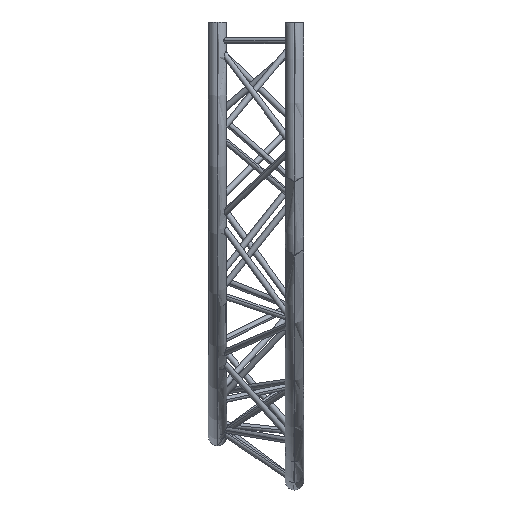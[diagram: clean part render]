
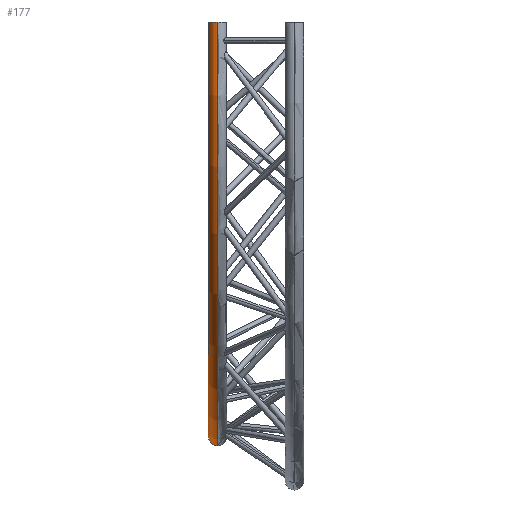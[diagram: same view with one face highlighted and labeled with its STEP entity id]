
A CAD part, left-side view. The second image highlights one B-rep face of the part: STEP entity #177.
In plain terms, the highlighted toroidal (fillet/blend) face has major radius 1106.5 mm and minor radius 25 mm.
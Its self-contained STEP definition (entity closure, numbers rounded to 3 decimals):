
#176 = EDGE_CURVE ( 'NONE', #1536, #1591, #3802, .T. ) ;
#177 = ADVANCED_FACE ( 'NONE', ( #3797 ), #3796, .T. ) ;
#178 = ORIENTED_EDGE ( 'NONE', *, *, #180, .T. ) ;
#179 = EDGE_LOOP ( 'NONE', ( #183, #178, #182, #181 ) ) ;
#180 = EDGE_CURVE ( 'NONE', #2206, #2137, #3794, .T. ) ;
#181 = ORIENTED_EDGE ( 'NONE', *, *, #176, .T. ) ;
#182 = ORIENTED_EDGE ( 'NONE', *, *, #2178, .T. ) ;
#183 = ORIENTED_EDGE ( 'NONE', *, *, #2186, .F. ) ;
#1536 = VERTEX_POINT ( 'NONE', #5755 ) ;
#1591 = VERTEX_POINT ( 'NONE', #5933 ) ;
#2137 = VERTEX_POINT ( 'NONE', #9048 ) ;
#2178 = EDGE_CURVE ( 'NONE', #2137, #1536, #9423, .T. ) ;
#2186 = EDGE_CURVE ( 'NONE', #2206, #1591, #9503, .T. ) ;
#2206 = VERTEX_POINT ( 'NONE', #9744 ) ;
#3792 = DIRECTION ( 'NONE',  ( 0., -1., 0. ) ) ;
#3793 = AXIS2_PLACEMENT_3D ( 'NONE', #3795, #3792, #3859 ) ;
#3794 = CIRCLE ( 'NONE', #3858, 25. ) ;
#3795 = CARTESIAN_POINT ( 'NONE',  ( 0., 136.832, 0. ) ) ;
#3796 = TOROIDAL_SURFACE ( 'NONE', #3793, 1106.5, 25. ) ;
#3797 = FACE_OUTER_BOUND ( 'NONE', #179, .T. ) ;
#3798 = DIRECTION ( 'NONE',  ( 0., 0., 1. ) ) ;
#3799 = DIRECTION ( 'NONE',  ( -1., 0., 0. ) ) ;
#3800 = CARTESIAN_POINT ( 'NONE',  ( 0., 136.832, -1106.5 ) ) ;
#3801 = AXIS2_PLACEMENT_3D ( 'NONE', #3800, #3799, #3798 ) ;
#3802 = CIRCLE ( 'NONE', #3801, 25. ) ;
#3855 = DIRECTION ( 'NONE',  ( -1., 0., 0. ) ) ;
#3856 = DIRECTION ( 'NONE',  ( 0., 0., -1. ) ) ;
#3857 = CARTESIAN_POINT ( 'NONE',  ( -1106.5, 136.832, 0. ) ) ;
#3858 = AXIS2_PLACEMENT_3D ( 'NONE', #3857, #3856, #3855 ) ;
#3859 = DIRECTION ( 'NONE',  ( 0., 0., -1. ) ) ;
#5755 = CARTESIAN_POINT ( 'NONE',  ( 0., 136.832, -1081.5 ) ) ;
#5933 = CARTESIAN_POINT ( 'NONE',  ( 0., 136.832, -1131.5 ) ) ;
#9048 = CARTESIAN_POINT ( 'NONE',  ( -1081.5, 136.832, 0. ) ) ;
#9423 = CIRCLE ( 'NONE', #9463, 1081.5 ) ;
#9460 = DIRECTION ( 'NONE',  ( 0., 0., -1. ) ) ;
#9461 = DIRECTION ( 'NONE',  ( 0., -1., 0. ) ) ;
#9462 = CARTESIAN_POINT ( 'NONE',  ( 0., 136.832, 0. ) ) ;
#9463 = AXIS2_PLACEMENT_3D ( 'NONE', #9462, #9461, #9460 ) ;
#9502 = AXIS2_PLACEMENT_3D ( 'NONE', #9528, #9524, #9523 ) ;
#9503 = CIRCLE ( 'NONE', #9502, 1131.5 ) ;
#9523 = DIRECTION ( 'NONE',  ( 0., 0., -1. ) ) ;
#9524 = DIRECTION ( 'NONE',  ( 0., -1., 0. ) ) ;
#9528 = CARTESIAN_POINT ( 'NONE',  ( 0., 136.832, 0. ) ) ;
#9744 = CARTESIAN_POINT ( 'NONE',  ( -1131.5, 136.832, 0. ) ) ;
